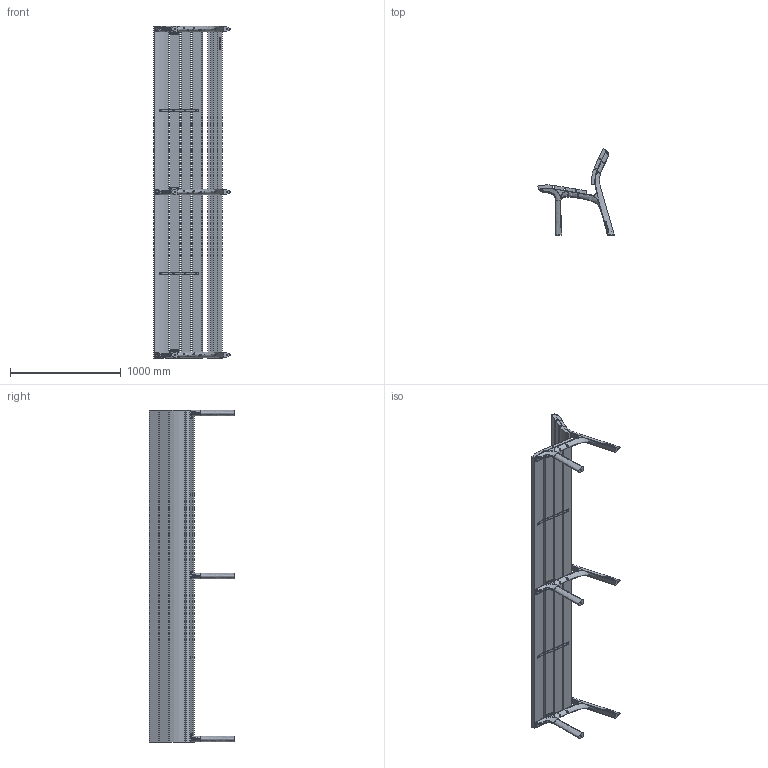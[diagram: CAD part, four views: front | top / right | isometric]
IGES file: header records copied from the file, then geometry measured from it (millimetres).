
Start section: SolidWorks IGES file using analytic representation for surfaces
Global section: file name: C:\SANTACOLE_PDM\Proyectos Catálogo\PROD-P13-022 -- NEOROMANTICO CLÁSICO\6_Técnico comercial\3D WEB\Banco NeoRomántico Clásico 3,00m.IGS; native system: SolidWorks 2013; preprocessor: SolidWorks 2013; author: jordi.munoz; date: 150409.162151; units: millimetre
Bounding box: 689.92 x 775.55 x 3000 mm (x, y, z)
Volume: 73699135.9 mm3; surface area: 6550621.9 mm2
Topology: 51 solids, 51 shells, 6942 faces, 19406 edges, 12570 vertices
Faces by surface type: plane 3000, revolution 2508, bspline 1434
